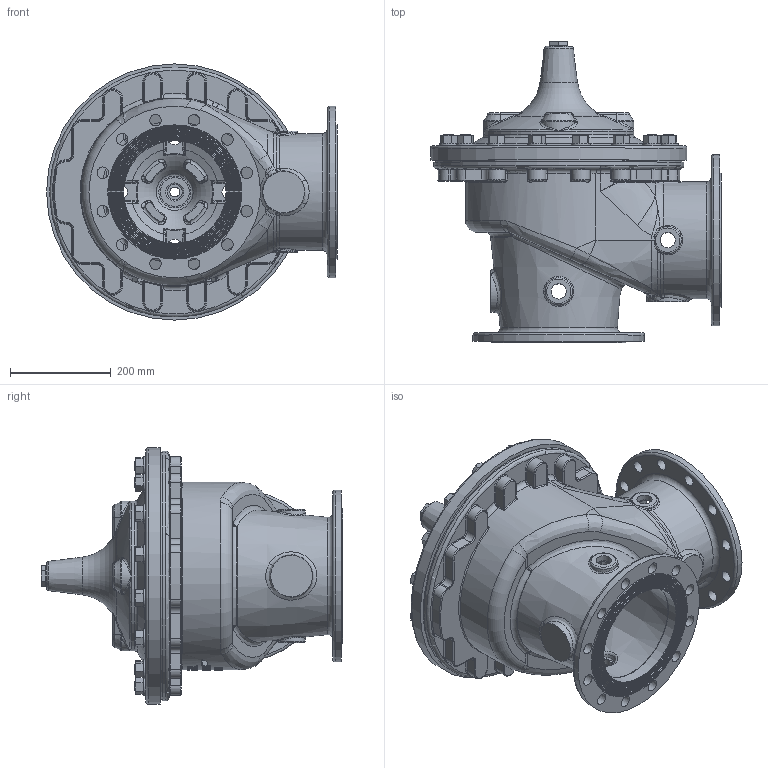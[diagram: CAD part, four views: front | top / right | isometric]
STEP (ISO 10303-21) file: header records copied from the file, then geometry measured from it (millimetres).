
FILE_DESCRIPTION(/* description */ (''),/* implementation_level */ '2;1');
FILE_NAME(/* name */ 'G:\Doc_Liberes\SymbolesCAD\Modeles_3D\FichierSTP\VanneDeBase\AE200-16RF.stp',/* time_stamp */ '2018-11-12T09:36:20+01:00',/* author */ ('sylvain'),/* organization */ (''),/* preprocessor_version */ 'ST-DEVELOPER v17',/* originating_system */ 'Autodesk Inventor 2018',/* authorisation */ '');
FILE_SCHEMA (('AUTOMOTIVE_DESIGN { 1 0 10303 214 3 1 1 }'));
Products named in the file (7): VBA1HT2002-KCOS; 57191-20; 37048-02C; RTT0100-63; ANSI B18.2.2 - 3/4 - 10; ASTM F436 - 3/4; 300743-01
Assembly tree (51 placements, depth 2):
  VBA1HT2002-KCOS
    57191-20
    37048-02C  x16
    RTT0100-63
    ANSI B18.2.2 - 3/4 - 10  x16
    ASTM F436 - 3/4  x16
    300743-01
Bounding box: 576.33 x 597.77 x 508 mm (x, y, z)
Volume: 17361377.3 mm3; surface area: 2320934.8 mm2
Topology: 51 solids, 51 shells, 2269 faces, 5729 edges, 3592 vertices
Faces by surface type: cone 652, plane 647, bspline 414, cylinder 367, torus 179, sphere 10
Full cylindrical faces by diameter (mm): 6.401 x8, 10.11 x4, 16.307 x32, 19.05 x16, 19.79 x1, 20.637 x16, 22 x16, 23 x24, 30.29 x5, 30.291 x4, 33.25 x1, 35.81 x1, 37.306 x16, 57.5 x1, 73.025 x1, 203.2 x2, 225.362 x1, 231.648 x1, 266 x2, 266.954 x1, 267 x1, 297.18 x1, 340.004 x2, 391 x1, 488.531 x1, 492 x1, 495.3 x1, 508 x1
Entity records: 92696 total; most frequent: CARTESIAN_POINT 48478, ORIENTED_EDGE 9464, DIRECTION 8599, EDGE_CURVE 4732, AXIS2_PLACEMENT_3D 3870, VERTEX_POINT 3037, CIRCLE 2335, EDGE_LOOP 1987
